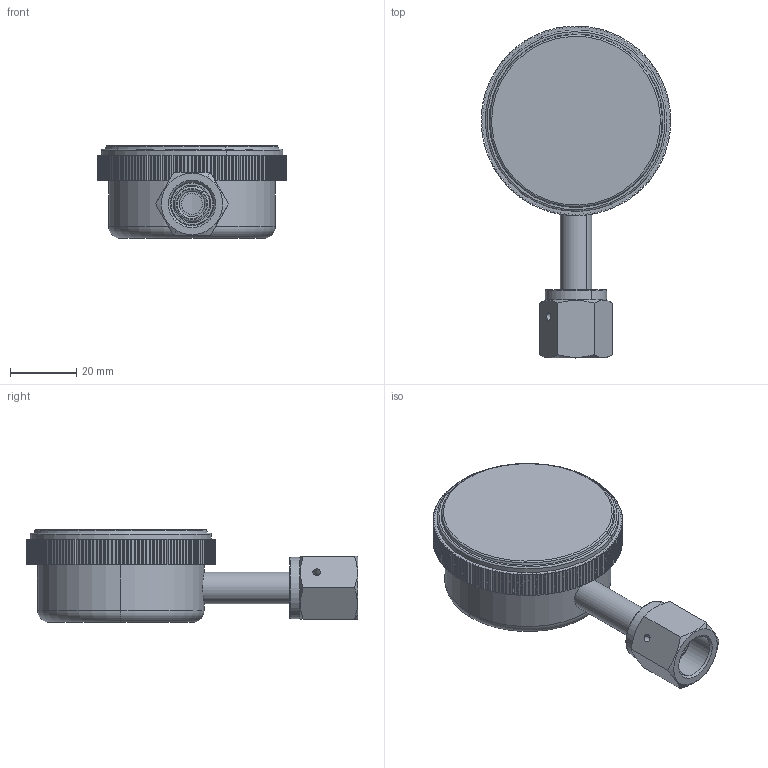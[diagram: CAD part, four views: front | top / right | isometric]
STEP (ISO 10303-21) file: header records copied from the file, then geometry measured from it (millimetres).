
FILE_DESCRIPTION (( 'STEP AP203' ), '1' );
FILE_NAME ('S20-SF.STEP', '2025-03-04T19:31:11', ( '' ), ( '' ), 'SwSTEP 2.0', 'SolidWorks 2023', '' );
FILE_SCHEMA (( 'CONFIG_CONTROL_DESIGN' ));
Length unit declared in the file: millimetre
Products named in the file (1): S20-SF
Bounding box: 57.2 x 100.2 x 28 mm (x, y, z)
Volume: 21057.8 mm3; surface area: 26779.3 mm2
Topology: 4 solids, 4 shells, 613 faces, 1707 edges, 1112 vertices
Faces by surface type: plane 338, cylinder 205, torus 34, cone 34, bspline 2
Entity records: 19935 total; most frequent: CARTESIAN_POINT 3737, ORIENTED_EDGE 3414, DIRECTION 3402, EDGE_CURVE 1707, VECTOR 1184, LINE 1184, VERTEX_POINT 1112, AXIS2_PLACEMENT_3D 1109
